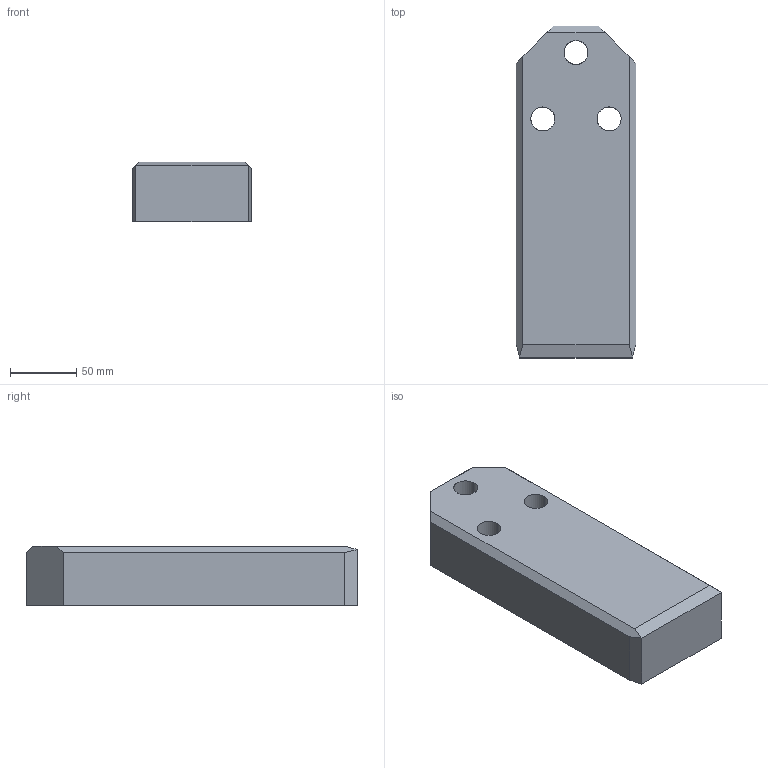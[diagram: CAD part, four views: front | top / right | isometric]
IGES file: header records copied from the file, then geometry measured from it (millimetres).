
Start section: START RECORD GO HERE.
Global section: file name: A927-90X250X45.igs; native system: DASSAULT SYSTEMES CATIA V5 R20 - www.3ds.com; preprocessor: CATIA Version 5 Release 20 ; author: Utente; organization: NB04-ASUS; date: 20200408.202433; units: millimetre
Bounding box: 90 x 250 x 45 mm (x, y, z)
Surface area: 78066.2 mm2 (no closed solid volume)
Topology: 0 solids, 0 shells, 35 faces, 168 edges, 168 vertices
Faces by surface type: revolution 18, extrusion 17
